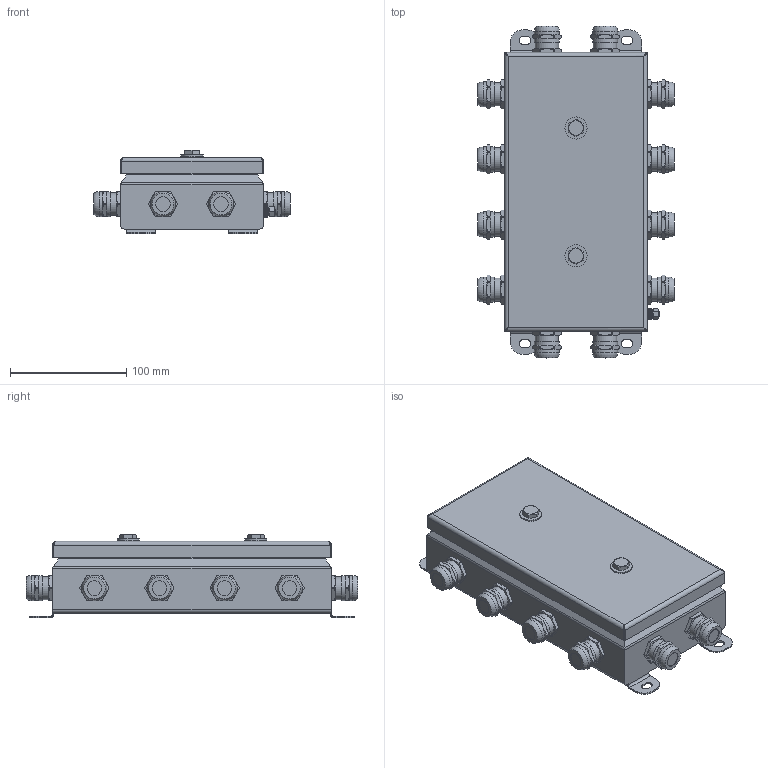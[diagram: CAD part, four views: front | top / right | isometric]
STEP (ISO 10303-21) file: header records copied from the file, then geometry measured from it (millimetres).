
FILE_DESCRIPTION(('STEP AP203'), '1');
FILE_NAME('Êîðîáêà 1224 IP66', '', ('UNSPECIFIED'), ('UNSPECIFIED'), 'ASCON STEP Converter 1.6', 'ASCON Math Kernel', '');
FILE_SCHEMA(('CONFIG_CONTROL_DESIGN'));
Length unit declared in the file: millimetre
Bounding box: 168.67 x 285.67 x 71.7 mm (x, y, z)
Volume: 1875929.9 mm3; surface area: 148747.4 mm2
Topology: 1 solids, 1 shells, 729 faces, 1808 edges, 1146 vertices
Faces by surface type: plane 330, cylinder 263, cone 114, torus 14, bspline 8
Full cylindrical faces by diameter (mm): 3.7 x1, 5 x2, 5.5 x2, 6.5 x1, 10 x2, 12.6 x12, 17 x2, 19 x2, 20 x12, 21.6 x24
Entity records: 42187 total; most frequent: CARTESIAN_POINT 7000, ORIENTED_EDGE 3408, DIRECTION 3380, PROPERTY_DEFINITION 2832, PROPERTY_DEFINITION_REPRESENTATION 2832, REPRESENTATION 2832, EDGE_CURVE 1704, GENERAL_PROPERTY_ASSOCIATION 1644
